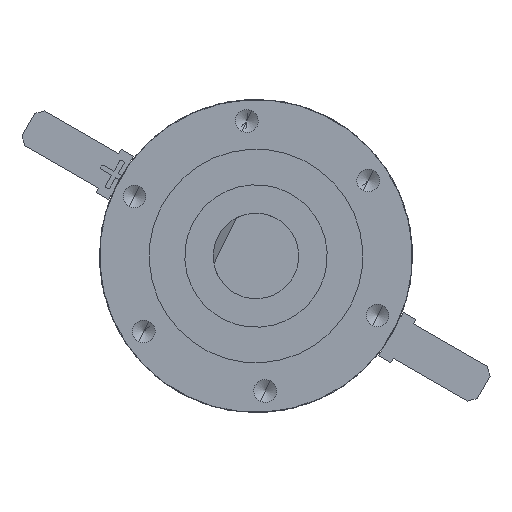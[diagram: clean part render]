
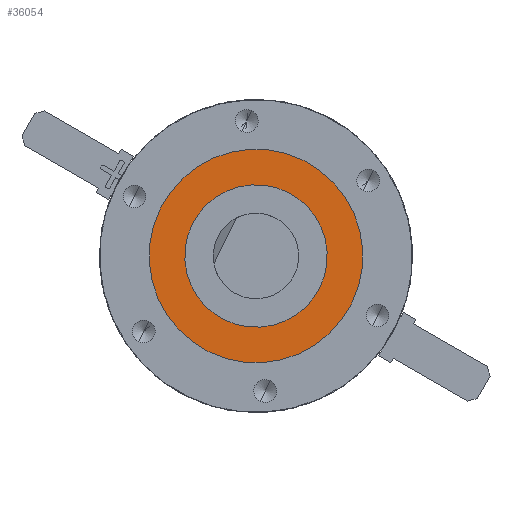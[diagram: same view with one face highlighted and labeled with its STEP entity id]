
A CAD part, left-side view. The second image highlights one B-rep face of the part: STEP entity #36054.
In plain terms, the highlighted planar face has unit normal (-1, 0, 0).
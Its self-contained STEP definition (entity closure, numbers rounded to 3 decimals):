
#745 = ORIENTED_EDGE ( 'NONE', *, *, #30941, .F. ) ;
#2501 = CIRCLE ( 'NONE', #38518, 5. ) ;
#5333 = EDGE_LOOP ( 'NONE', ( #745, #31554 ) ) ;
#9087 = AXIS2_PLACEMENT_3D ( 'NONE', #12583, #34848, #15805 ) ;
#9092 = EDGE_LOOP ( 'NONE', ( #24019, #10416 ) ) ;
#10359 = EDGE_CURVE ( 'NONE', #35829, #36266, #29394, .T. ) ;
#10416 = ORIENTED_EDGE ( 'NONE', *, *, #19896, .F. ) ;
#12583 = CARTESIAN_POINT ( 'NONE',  ( -2.1, 0., 0. ) ) ;
#14149 = AXIS2_PLACEMENT_3D ( 'NONE', #18424, #40652, #21647 ) ;
#14592 = AXIS2_PLACEMENT_3D ( 'NONE', #37773, #18695, #40955 ) ;
#15626 = CARTESIAN_POINT ( 'NONE',  ( -2.1, 0., 0. ) ) ;
#15805 = DIRECTION ( 'NONE',  ( 0., 0., -1. ) ) ;
#15940 = CARTESIAN_POINT ( 'NONE',  ( -2.1, 0., 7.5 ) ) ;
#16401 = CARTESIAN_POINT ( 'NONE',  ( -2.1, 0., -7.5 ) ) ;
#17624 = PLANE ( 'NONE',  #19831 ) ;
#18424 = CARTESIAN_POINT ( 'NONE',  ( -2.1, 0., 0. ) ) ;
#18695 = DIRECTION ( 'NONE',  ( -1., 0., 0. ) ) ;
#18808 = DIRECTION ( 'NONE',  ( 0., 0., -1. ) ) ;
#19487 = FACE_OUTER_BOUND ( 'NONE', #9092, .T. ) ;
#19831 = AXIS2_PLACEMENT_3D ( 'NONE', #30301, #39864, #20822 ) ;
#19896 = EDGE_CURVE ( 'NONE', #36266, #35829, #29284, .T. ) ;
#20822 = DIRECTION ( 'NONE',  ( 0., 0., -1. ) ) ;
#21647 = DIRECTION ( 'NONE',  ( 0., 0., -1. ) ) ;
#23114 = EDGE_CURVE ( 'NONE', #34652, #39344, #39966, .T. ) ;
#24019 = ORIENTED_EDGE ( 'NONE', *, *, #10359, .F. ) ;
#29284 = CIRCLE ( 'NONE', #9087, 7.5 ) ;
#29394 = CIRCLE ( 'NONE', #14149, 7.5 ) ;
#30301 = CARTESIAN_POINT ( 'NONE',  ( -2.1, 0., 0. ) ) ;
#30941 = EDGE_CURVE ( 'NONE', #39344, #34652, #2501, .T. ) ;
#31554 = ORIENTED_EDGE ( 'NONE', *, *, #23114, .F. ) ;
#34652 = VERTEX_POINT ( 'NONE', #39022 ) ;
#34848 = DIRECTION ( 'NONE',  ( 1., 0., 0. ) ) ;
#35829 = VERTEX_POINT ( 'NONE', #16401 ) ;
#36054 = ADVANCED_FACE ( 'NONE', ( #36408, #19487 ), #17624, .F. ) ;
#36266 = VERTEX_POINT ( 'NONE', #15940 ) ;
#36408 = FACE_BOUND ( 'NONE', #5333, .T. ) ;
#36994 = CARTESIAN_POINT ( 'NONE',  ( -2.1, 0., -5. ) ) ;
#37773 = CARTESIAN_POINT ( 'NONE',  ( -2.1, 0., 0. ) ) ;
#37872 = DIRECTION ( 'NONE',  ( -1., 0., 0. ) ) ;
#38518 = AXIS2_PLACEMENT_3D ( 'NONE', #15626, #37872, #18808 ) ;
#39022 = CARTESIAN_POINT ( 'NONE',  ( -2.1, 0., 5. ) ) ;
#39344 = VERTEX_POINT ( 'NONE', #36994 ) ;
#39864 = DIRECTION ( 'NONE',  ( 1., 0., 0. ) ) ;
#39966 = CIRCLE ( 'NONE', #14592, 5. ) ;
#40652 = DIRECTION ( 'NONE',  ( 1., 0., 0. ) ) ;
#40955 = DIRECTION ( 'NONE',  ( 0., 0., -1. ) ) ;
